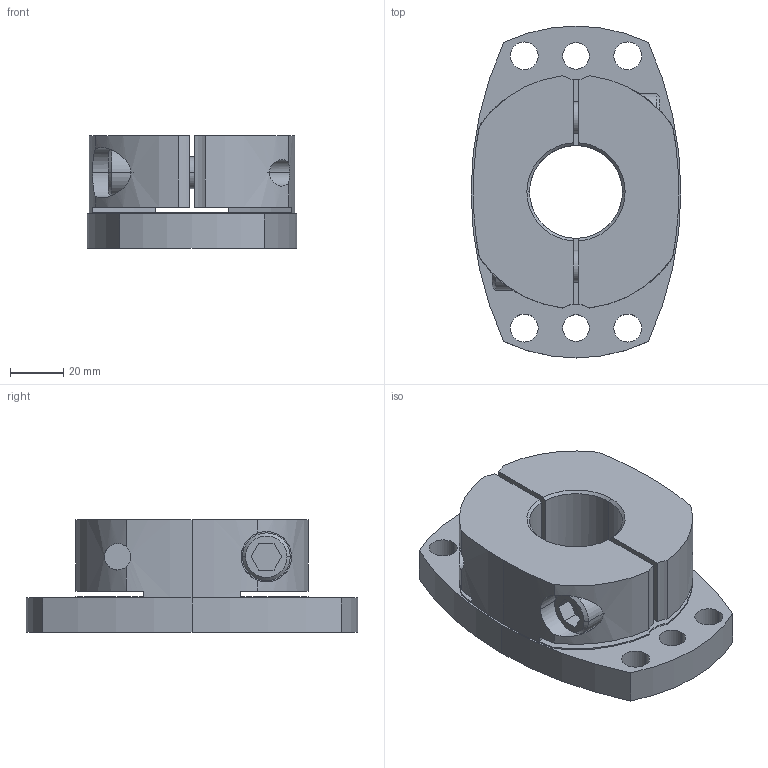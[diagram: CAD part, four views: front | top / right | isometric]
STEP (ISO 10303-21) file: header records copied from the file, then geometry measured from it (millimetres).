
FILE_DESCRIPTION((''),'2;1');
FILE_NAME('SHDB-125B-35.stp','2026-01-28T08:48:44',(''),(''),'AutoCAD STEP 2000i','AutoCAD 2000i',', , ');
FILE_SCHEMA(('CONFIG_CONTROL_DESIGN'));
Length unit declared in the file: millimetre
Products named in the file (2): SHDB-125B-25; 忣兜1
Assembly tree (1 placements, depth 2):
  SHDB-125B-25
    忣兜1
Bounding box: 79 x 125 x 42.5 mm (x, y, z)
Volume: 216322.8 mm3; surface area: 46476.9 mm2
Topology: 1 solids, 1 shells, 102 faces, 280 edges, 184 vertices
Faces by surface type: cylinder 58, plane 34, cone 10
Entity records: 3699 total; most frequent: CARTESIAN_POINT 872, DIRECTION 602, ORIENTED_EDGE 560, EDGE_CURVE 280, AXIS2_PLACEMENT_3D 238, VERTEX_POINT 184, CIRCLE 134, VECTOR 126
